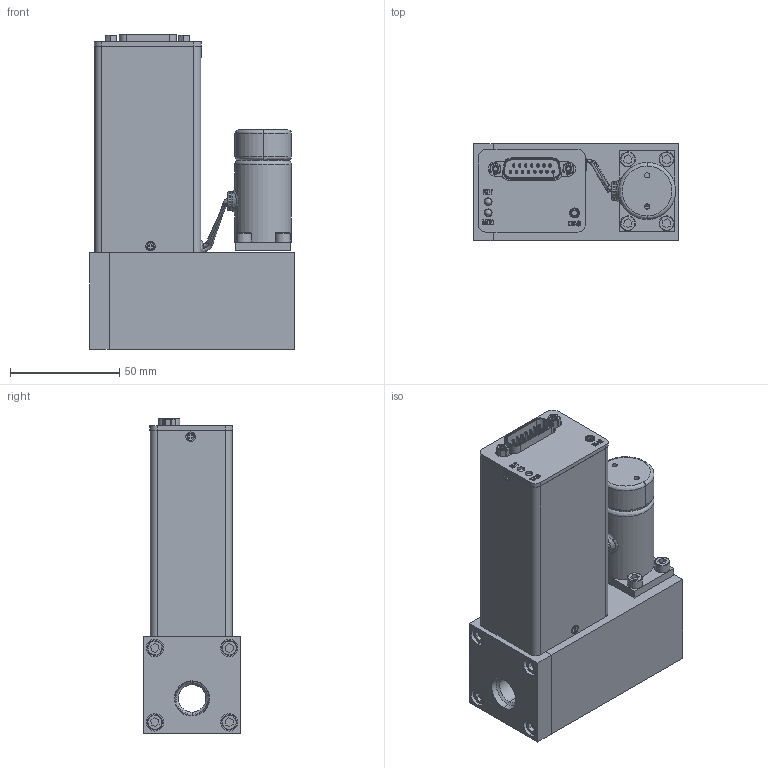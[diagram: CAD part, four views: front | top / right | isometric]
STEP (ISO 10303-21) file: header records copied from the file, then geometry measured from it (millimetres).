
FILE_DESCRIPTION (( 'STEP AP203' ), '1' );
FILE_NAME ('SLA5851S1Axx1Bxxx.STEP', '2015-05-14T15:09:37', ( 'mrutkowski' ), ( 'Hewlett-Packard Company' ), 'SwSTEP 2.0', 'SolidWorks 2014', '' );
FILE_SCHEMA (( 'CONFIG_CONTROL_DESIGN' ));
Length unit declared in the file: inch
Products named in the file (1): SLA5851S1Axx1Bxxx
Bounding box: 93.55 x 44.32 x 143.86 mm (x, y, z)
Surface area: 58779.8 mm2 (no closed solid volume)
Topology: 0 solids, 53 shells, 653 faces, 2005 edges, 1429 vertices
Faces by surface type: plane 322, cylinder 177, cone 117, bspline 37
Entity records: 23820 total; most frequent: CARTESIAN_POINT 5881, DIRECTION 3768, ORIENTED_EDGE 3302, EDGE_CURVE 2001, VERTEX_POINT 1429, AXIS2_PLACEMENT_3D 1282, VECTOR 1204, LINE 1204
